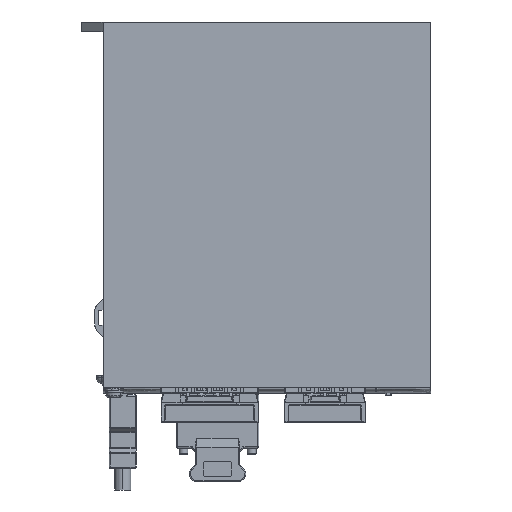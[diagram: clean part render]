
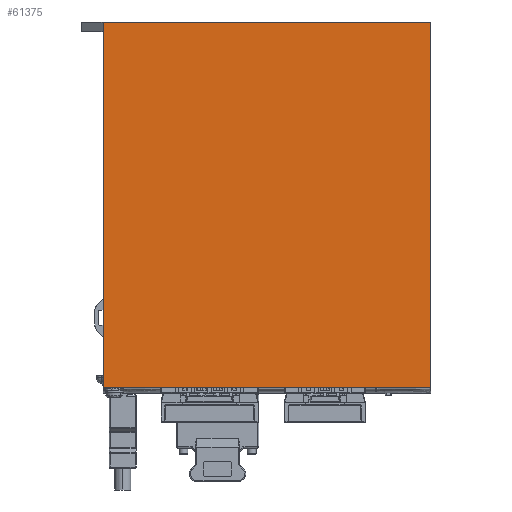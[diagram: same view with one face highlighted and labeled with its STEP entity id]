
A CAD part, front view. The second image highlights one B-rep face of the part: STEP entity #61375.
In plain terms, the highlighted planar face has unit normal (0, -1, 0).
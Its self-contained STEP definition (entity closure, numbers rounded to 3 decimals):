
#10433 = CARTESIAN_POINT ( 'NONE',  ( -150., 0., -79.5 ) ) ;
#13612 = EDGE_CURVE ( 'NONE', #50066, #74226, #51544, .T. ) ;
#14884 = ORIENTED_EDGE ( 'NONE', *, *, #138827, .F. ) ;
#16429 = EDGE_CURVE ( 'NONE', #111548, #74226, #154815, .T. ) ;
#17867 = CARTESIAN_POINT ( 'NONE',  ( -150., 0., -79.5 ) ) ;
#23941 = CARTESIAN_POINT ( 'NONE',  ( -150., 0., -79.5 ) ) ;
#33755 = LINE ( 'NONE', #62003, #89638 ) ;
#37945 = CARTESIAN_POINT ( 'NONE',  ( 0., 0., 88. ) ) ;
#39917 = CARTESIAN_POINT ( 'NONE',  ( -150., 0., -79.5 ) ) ;
#50066 = VERTEX_POINT ( 'NONE', #37945 ) ;
#50743 = DIRECTION ( 'NONE',  ( 1., 0., 0. ) ) ;
#51544 = LINE ( 'NONE', #123839, #132311 ) ;
#52978 = ORIENTED_EDGE ( 'NONE', *, *, #16429, .T. ) ;
#56648 = VECTOR ( 'NONE', #109356, 1000. ) ;
#61375 = ADVANCED_FACE ( 'NONE', ( #85824 ), #127091, .T. ) ;
#62003 = CARTESIAN_POINT ( 'NONE',  ( -150., 0., 88. ) ) ;
#66825 = DIRECTION ( 'NONE',  ( 0., -1., 0. ) ) ;
#68865 = ORIENTED_EDGE ( 'NONE', *, *, #13612, .F. ) ;
#74226 = VERTEX_POINT ( 'NONE', #134513 ) ;
#80814 = DIRECTION ( 'NONE',  ( 0., 0., -1. ) ) ;
#85318 = AXIS2_PLACEMENT_3D ( 'NONE', #17867, #66825, #80814 ) ;
#85824 = FACE_OUTER_BOUND ( 'NONE', #109684, .T. ) ;
#89638 = VECTOR ( 'NONE', #50743, 1000. ) ;
#92205 = CARTESIAN_POINT ( 'NONE',  ( -150., 0., 88. ) ) ;
#99721 = VECTOR ( 'NONE', #123397, 1000. ) ;
#104656 = EDGE_CURVE ( 'NONE', #140072, #111548, #143991, .T. ) ;
#109356 = DIRECTION ( 'NONE',  ( 1., 0., 0. ) ) ;
#109684 = EDGE_LOOP ( 'NONE', ( #68865, #14884, #115346, #52978 ) ) ;
#111548 = VERTEX_POINT ( 'NONE', #39917 ) ;
#115346 = ORIENTED_EDGE ( 'NONE', *, *, #104656, .T. ) ;
#123397 = DIRECTION ( 'NONE',  ( 0., 0., -1. ) ) ;
#123839 = CARTESIAN_POINT ( 'NONE',  ( 0., 0., -79.5 ) ) ;
#127091 = PLANE ( 'NONE',  #85318 ) ;
#132311 = VECTOR ( 'NONE', #136205, 1000. ) ;
#134513 = CARTESIAN_POINT ( 'NONE',  ( 0., 0., -79.5 ) ) ;
#136205 = DIRECTION ( 'NONE',  ( 0., 0., -1. ) ) ;
#138827 = EDGE_CURVE ( 'NONE', #140072, #50066, #33755, .T. ) ;
#140072 = VERTEX_POINT ( 'NONE', #92205 ) ;
#143991 = LINE ( 'NONE', #23941, #99721 ) ;
#154815 = LINE ( 'NONE', #10433, #56648 ) ;
